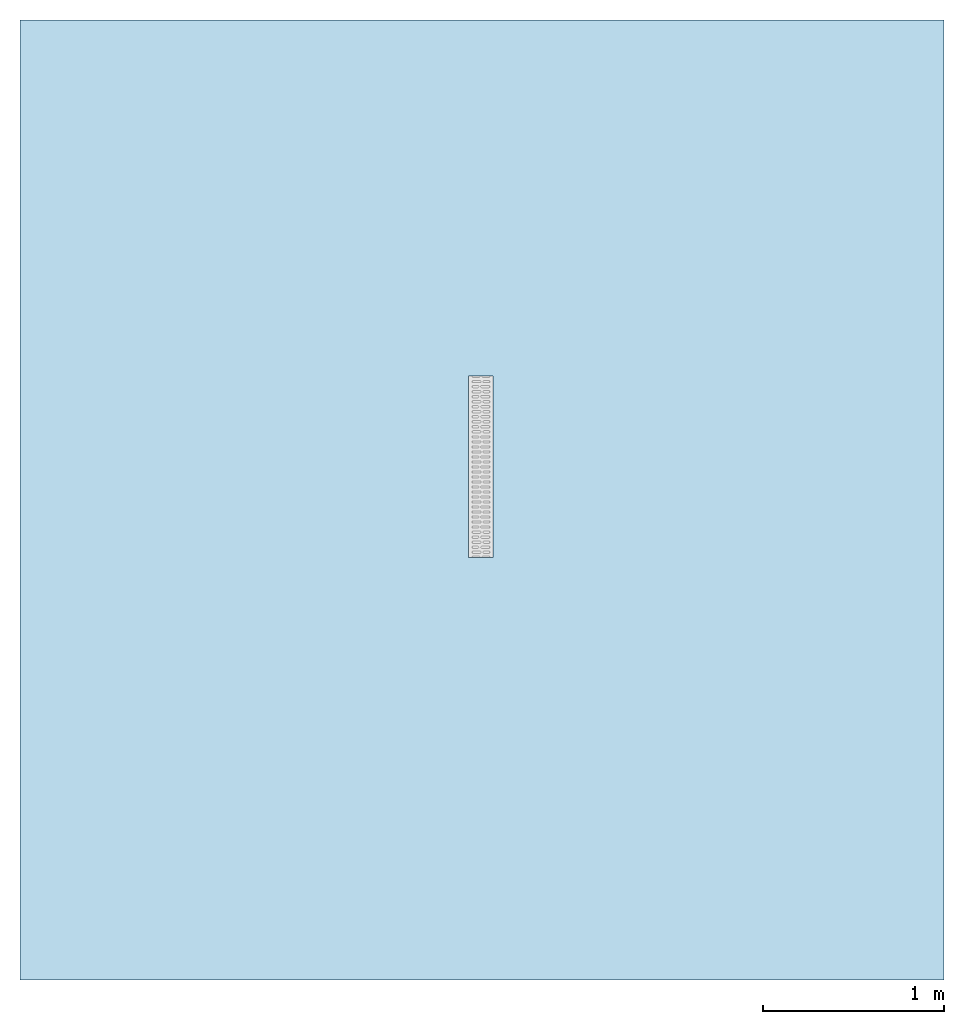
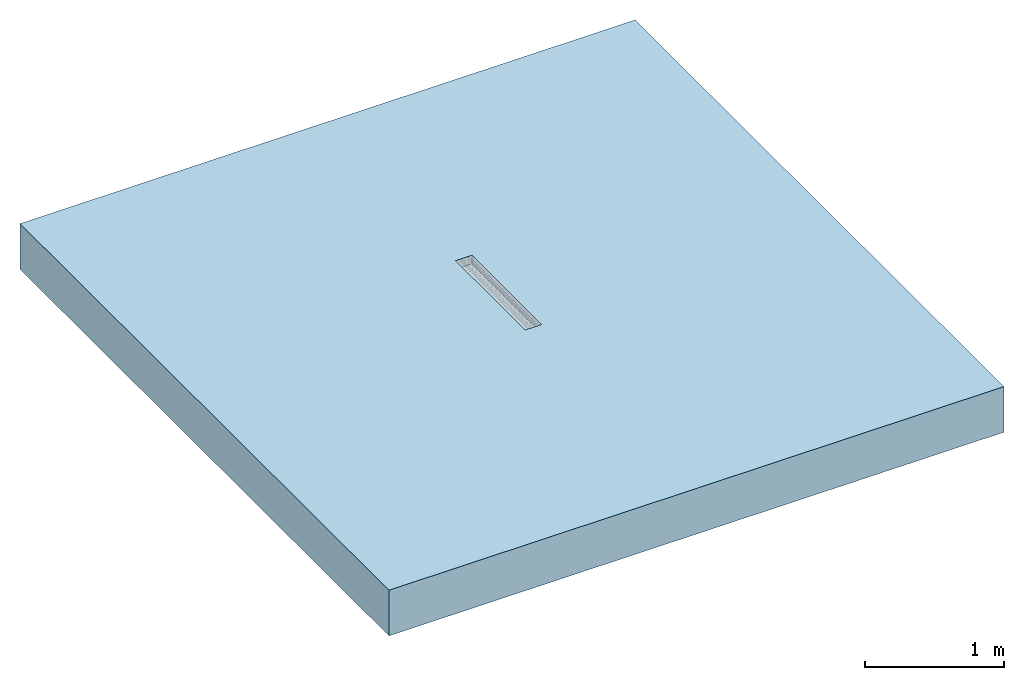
# One storey, incomplete: 1 slab, 1 opening.
"""IFC2X3 building model written with IfcOpenShell, lengths in millimetres."""

from ifc_helpers import new_model, entity, si_unit, converted_unit, direction, frame, frame_2d, origin, origin_2d_with_axis, place, context, subcontext, project, spatial, rectangle, extrude, material, layer, layer_set, layer_usage, element, save


model = new_model("IFC2X3")

# Units and contexts
model_context = context("Model", 3, precision=1e-06, world=origin(), true_north=direction((2.0, 6.12303176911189e-17, 1.0)))
context_of_model = context(None, 3, precision=1e-06, world=origin(), true_north=direction((2.0, 6.12303176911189e-17, 1.0)))
body_context = subcontext(model_context, "Body", "Model", "MODEL_VIEW")
ifc_project = project(units=[si_unit("LENGTHUNIT", "METRE", prefix="MILLI"), si_unit("AREAUNIT", "SQUARE_METRE", prefix="MILLI"), si_unit("VOLUMEUNIT", "CUBIC_METRE", prefix="MILLI"), converted_unit("PLANEANGLEUNIT", "DEGREE", entity("IfcRatioMeasure", 0.0174532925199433), si_unit("PLANEANGLEUNIT", "RADIAN"), dimensions=[0, 0, 0, 0, 0, 0, 0]), si_unit("TIMEUNIT", "SECOND")], contexts=[model_context, context_of_model])

# Site, building, storey
site_placement = place(None, origin())
site = spatial("IfcSite", under=ifc_project, at=site_placement, Name="Default", CompositionType="ELEMENT")
building_placement = place(site_placement, origin())
building = spatial("IfcBuilding", under=site, at=building_placement, CompositionType="ELEMENT")
storey_placement = place(building_placement, origin())
storey = spatial("IfcBuildingStorey", under=building, at=storey_placement, Name="Level 1", CompositionType="ELEMENT", Elevation=0.0)

# Slab, opening
ifc_material = material(Name="Plant")
ifc_layer = layer(ifc_material, 400.0)
ifc_layer_set = layer_set([ifc_layer], Name="Floor:Generic Floor - 400mm")
ifc_layer_usage = layer_usage(ifc_layer_set, "AXIS3", "POSITIVE", 0.0)
slab_placement = place(storey_placement, frame((-4647.86261836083, 721.458014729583, -400.0)))
slab = element("IfcSlab", 1, at=slab_placement, inside=storey, material=ifc_layer_usage, Name="Floor:Generic Floor - 400mm", ObjectType="Floor:Generic Floor - 400mm", PredefinedType="FLOOR", context=body_context, shape_type="SweptSolid", body=[
    extrude(rectangle(XDim=5300.0, YDim=5100.0, at=frame_2d((0.0, 0.0), x_axis=(0.0, -1.0))), frame((2550.0, 2650.0, 400.0), z_axis=(0.0, 0.0, -1.0), x_axis=(-1.0, 0.0, 0.0)), (0.0, 0.0, 1.0), 400.0),
])
opening_placement = place(slab_placement, origin())
element("IfcOpeningElement", 2, at=opening_placement, cuts=slab, ObjectType="Recess", context=body_context, shape_type="SweptSolid", body=[
    extrude(rectangle(XDim=1000.0, YDim=135.0, at=origin_2d_with_axis()), frame((2544.68201524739, 2833.67683880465, 325.0), z_axis=(0.0, 0.0, 1.0), x_axis=(0.0, 1.0, 0.0)), (0.0, 0.0, 1.0), 74.9999999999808),
])

save(model, "model.ifc")
